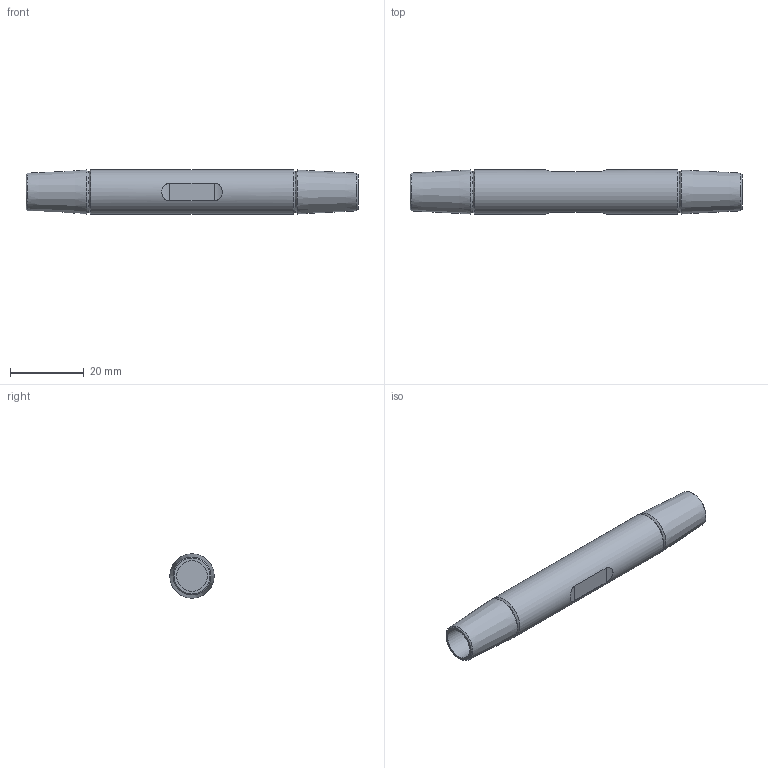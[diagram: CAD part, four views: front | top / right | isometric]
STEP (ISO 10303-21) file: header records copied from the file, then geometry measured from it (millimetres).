
FILE_DESCRIPTION(/* description */ (''),/* implementation_level */ '2;1');
FILE_NAME(/* name */ 'G:\Engineering\700 CAD\Internet-PX-1-step-igs-dxf\520-MUF-Arbeitsdateien\520-008-MUF.stp',/* time_stamp */ '2020-06-30T13:08:59+02:00',/* author */ ('schwarz'),/* organization */ (''),/* preprocessor_version */ 'ST-DEVELOPER v16.1',/* originating_system */ 'Autodesk Inventor 2016',/* authorisation */ '');
FILE_SCHEMA (('AUTOMOTIVE_DESIGN { 1 0 10303 214 3 1 1 }'));
Length unit declared in the file: centimetre
Products named in the file (1): Zusammenbau Muffe 520 008 Kunde
Bounding box: 90 x 12 x 12 mm (x, y, z)
Volume: 8126.9 mm3; surface area: 4160.9 mm2
Topology: 1 solids, 1 shells, 21 faces, 43 edges, 27 vertices
Faces by surface type: cone 8, cylinder 7, plane 6
Full cylindrical faces by diameter (mm): 8.4 x2, 12 x1
Entity records: 613 total; most frequent: CARTESIAN_POINT 166, DIRECTION 80, ORIENTED_EDGE 60, EDGE_LOOP 36, AXIS2_PLACEMENT_3D 36, EDGE_CURVE 30, VERTEX_POINT 26, STYLED_ITEM 22
